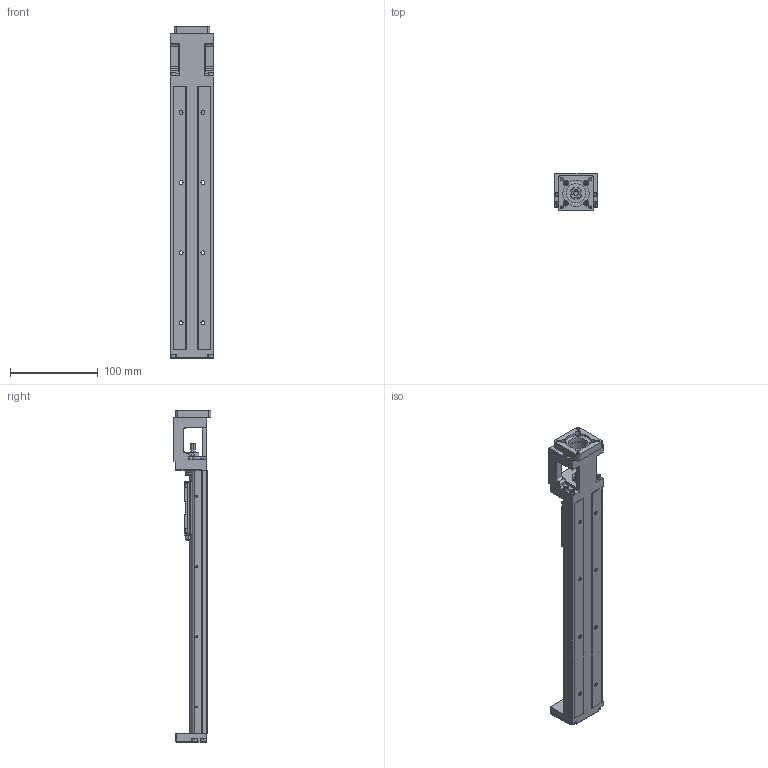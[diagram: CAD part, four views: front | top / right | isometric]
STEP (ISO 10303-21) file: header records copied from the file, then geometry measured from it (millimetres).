
FILE_DESCRIPTION (( 'STEP AP214' ), '1' );
FILE_NAME ('7.0111 KT5002C-300A1-F1.STEP', '2026-03-17T09:50:52', ( '' ), ( '' ), 'SwSTEP 2.0', 'SolidWorks 2025', '' );
FILE_SCHEMA (( 'AUTOMOTIVE_DESIGN' ));
Length unit declared in the file: millimetre
Products named in the file (4): KT50-K0_300; KT-50-F1 Delta 100W motor plate; KT50-FS-0802; 7.0111 KT5002C-300A1-F1
Assembly tree (3 placements, depth 2):
  7.0111 KT5002C-300A1-F1
    KT50-K0_300
    KT50-FS-0802
    KT-50-F1 Delta 100W motor plate
Bounding box: 50 x 42.7 x 378.5 mm (x, y, z)
Volume: 264715 mm3; surface area: 102788.8 mm2
Topology: 22 solids, 22 shells, 1838 faces, 4872 edges, 3144 vertices
Faces by surface type: plane 1190, cylinder 466, cone 91, torus 59, bspline 17, sphere 15
Entity records: 76668 total; most frequent: CARTESIAN_POINT 12194, ORIENTED_EDGE 9646, DIRECTION 9433, EDGE_CURVE 4823, VECTOR 3499, LINE 3499, VERTEX_POINT 3142, AXIS2_PLACEMENT_3D 2967
